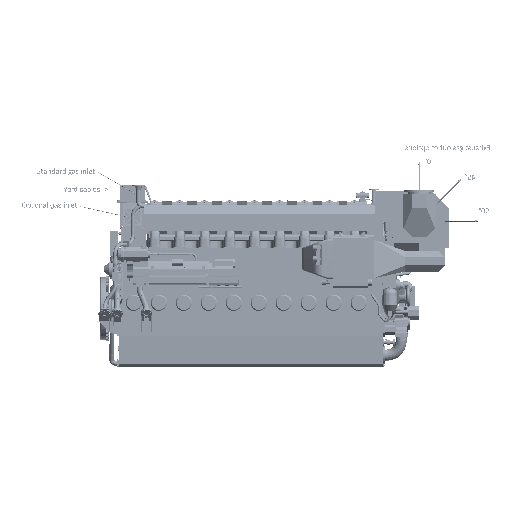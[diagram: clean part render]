
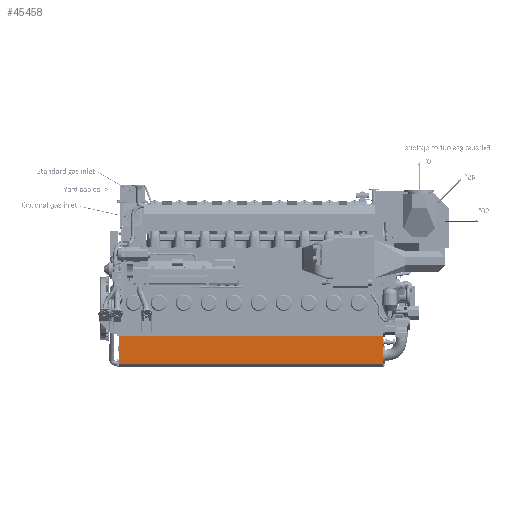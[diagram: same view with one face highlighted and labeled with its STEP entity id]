
A CAD part, front view. The second image highlights one B-rep face of the part: STEP entity #45458.
In plain terms, the highlighted planar face has unit normal (0, -0.999, -0.052).
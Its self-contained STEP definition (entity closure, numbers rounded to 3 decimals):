
#45458=ADVANCED_FACE('',(#71607),#59013,.F.);
#59013=PLANE('',#328723);
#71607=FACE_OUTER_BOUND('',#88628,.T.);
#88628=EDGE_LOOP('',(#191355,#191356,#191357,#191358));
#112129=LINE('',#592820,#137153);
#112143=LINE('',#592871,#137167);
#112153=LINE('',#592898,#137177);
#112154=LINE('',#592900,#137178);
#137153=VECTOR('',#378618,1.);
#137167=VECTOR('',#378656,1.);
#137177=VECTOR('',#378680,1.);
#137178=VECTOR('',#378683,1.);
#191355=ORIENTED_EDGE('',*,*,#286042,.T.);
#191356=ORIENTED_EDGE('',*,*,#286082,.F.);
#191357=ORIENTED_EDGE('',*,*,#286067,.F.);
#191358=ORIENTED_EDGE('',*,*,#286081,.T.);
#250042=VERTEX_POINT('',#592819);
#250043=VERTEX_POINT('',#592821);
#250067=VERTEX_POINT('',#592870);
#250068=VERTEX_POINT('',#592872);
#286042=EDGE_CURVE('',#250043,#250042,#112129,.T.);
#286067=EDGE_CURVE('',#250067,#250068,#112143,.T.);
#286081=EDGE_CURVE('',#250067,#250043,#112153,.T.);
#286082=EDGE_CURVE('',#250068,#250042,#112154,.T.);
#328723=AXIS2_PLACEMENT_3D('',#592901,#378684,#378685);
#378618=DIRECTION('',(0.,-0.052,0.999));
#378656=DIRECTION('',(0.,-0.052,0.999));
#378680=DIRECTION('',(1.,0.,0.));
#378683=DIRECTION('',(1.,0.,0.));
#378684=DIRECTION('',(0.,0.999,0.052));
#378685=DIRECTION('',(0.,-0.052,0.999));
#592819=CARTESIAN_POINT('',(0.,-440.25,-545.));
#592820=CARTESIAN_POINT('',(0.,-412.339,-1079.568));
#592821=CARTESIAN_POINT('',(0.,-412.339,-1079.568));
#592870=CARTESIAN_POINT('',(-5180.,-412.339,-1079.568));
#592871=CARTESIAN_POINT('',(-5180.,-412.339,-1079.568));
#592872=CARTESIAN_POINT('',(-5180.,-440.25,-545.));
#592898=CARTESIAN_POINT('',(-5180.,-412.339,-1079.568));
#592900=CARTESIAN_POINT('',(-5180.,-440.25,-545.));
#592901=CARTESIAN_POINT('',(-5180.,-412.339,-1079.568));
